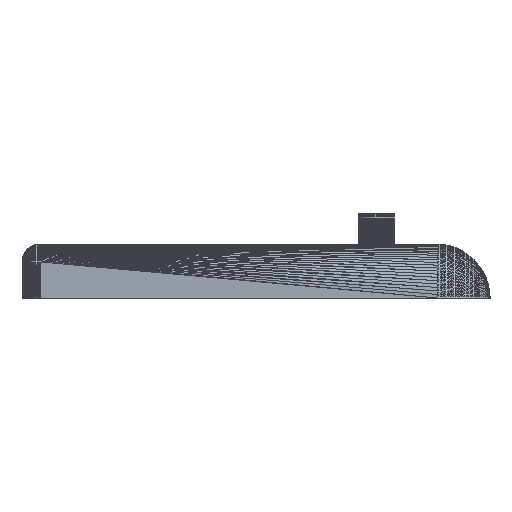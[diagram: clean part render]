
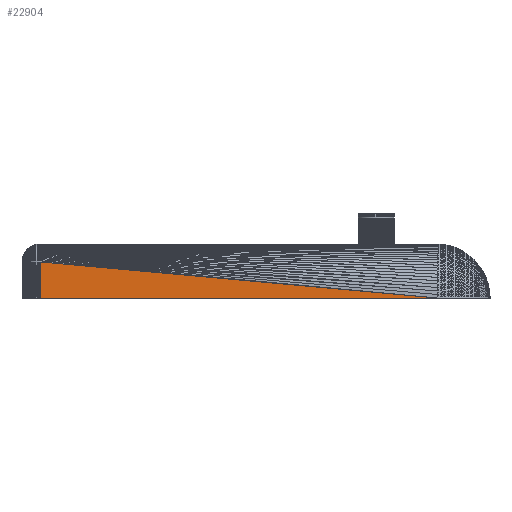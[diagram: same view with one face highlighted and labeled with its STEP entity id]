
A CAD part, left-side view. The second image highlights one B-rep face of the part: STEP entity #22904.
In plain terms, the highlighted planar face has unit normal (-1, 0, 0).
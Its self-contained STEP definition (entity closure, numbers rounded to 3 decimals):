
#83=CARTESIAN_POINT('',(-59.998,-83.098,0.0));
#84=VERTEX_POINT('',#83);
#89=CARTESIAN_POINT('',(-59.998,-83.098,6.0));
#90=VERTEX_POINT('',#89);
#489=CARTESIAN_POINT('',(-59.995,-149.294,0.0));
#490=VERTEX_POINT('',#489);
#21050=DIRECTION('',(0.0,0.0,1.0));
#21051=VECTOR('',#21050,6.0);
#21052=LINE('',#83,#21051);
#21053=EDGE_CURVE('',#84,#90,#21052,.T.);
#22887=ORIENTED_EDGE('',*,*,#21053,.F.);
#22888=DIRECTION('',(0.,-1.0,0.0));
#22889=VECTOR('',#22888,66.196);
#22890=LINE('',#83,#22889);
#22891=EDGE_CURVE('',#84,#490,#22890,.T.);
#22892=ORIENTED_EDGE('',*,*,#22891,.T.);
#22893=DIRECTION('',(0.,-0.996,-0.09));
#22894=VECTOR('',#22893,66.467);
#22895=LINE('',#89,#22894);
#22896=EDGE_CURVE('',#90,#490,#22895,.T.);
#22897=ORIENTED_EDGE('',*,*,#22896,.F.);
#22898=EDGE_LOOP('',(#22887,#22892,#22897));
#22899=FACE_OUTER_BOUND('',#22898,.T.);
#22900=DIRECTION('',(-1.0,0.,0.0));
#22901=DIRECTION('',(0.,1.0,0.0));
#22902=AXIS2_PLACEMENT_3D('',#89,#22900,#22901);
#22903=PLANE('',#22902);
#22904=ADVANCED_FACE('',(#22899),#22903,.T.);
